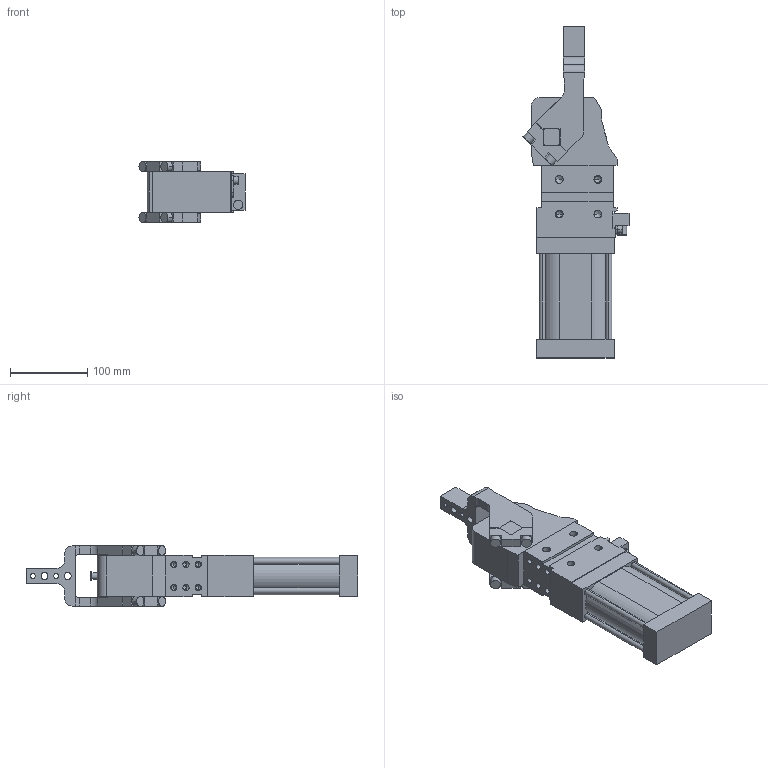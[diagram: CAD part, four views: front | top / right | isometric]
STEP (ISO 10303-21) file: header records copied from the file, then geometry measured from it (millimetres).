
FILE_DESCRIPTION (( 'STEP AP214' ), '1' );
FILE_NAME ('cpl63h1csi1g_75.STEP', '2023-01-26T10:26:39', ( '' ), ( '' ), 'SwSTEP 2.0', 'SolidWorks 2022', '' );
FILE_SCHEMA (( 'AUTOMOTIVE_DESIGN' ));
Length unit declared in the file: millimetre
Products named in the file (4): blocchetto_VEP_0; cpl63h1csi1g_75; leva_cx_offset_15_cpl63; meccanica_cpl_63
Assembly tree (3 placements, depth 2):
  cpl63h1csi1g_75
    meccanica_cpl_63
    blocchetto_VEP_0
    leva_cx_offset_15_cpl63
Bounding box: 137.59 x 430.5 x 79 mm (x, y, z)
Volume: 1779035.3 mm3; surface area: 187989.7 mm2
Topology: 3 solids, 3 shells, 396 faces, 1037 edges, 639 vertices
Faces by surface type: plane 198, cylinder 148, cone 50
Entity records: 13451 total; most frequent: DIRECTION 2119, CARTESIAN_POINT 2116, ORIENTED_EDGE 1982, EDGE_CURVE 991, AXIS2_PLACEMENT_3D 732, LINE 655, VECTOR 655, VERTEX_POINT 639
